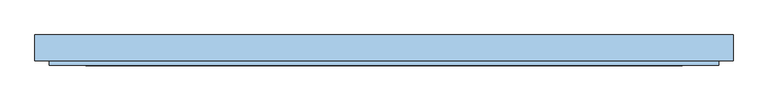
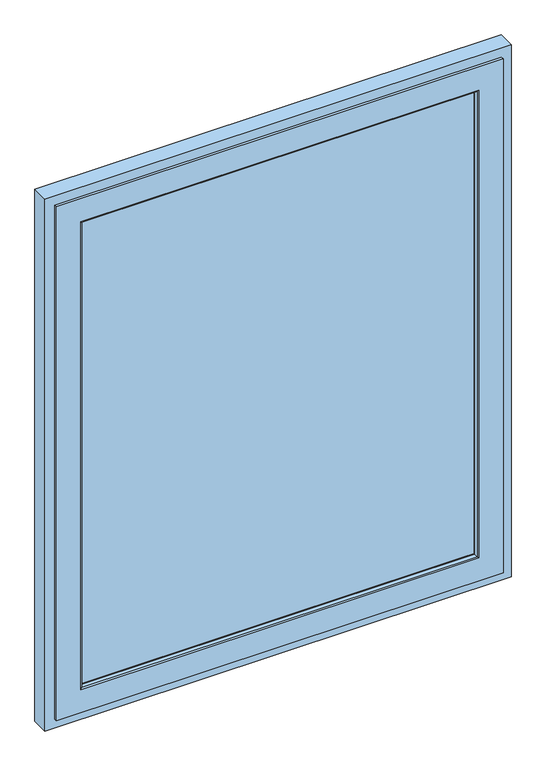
"""IFC4 building model written with IfcOpenShell, lengths in millimetres: window geometry, Hught vent : Hught vent."""

from ifc_helpers import new_model, si_unit, frame, origin, place, context, project, spatial, polyline, ellipse_curve, outline, extrude, faceted_brep, source, transform, mapped, element, save
from ifc_brep_helpers import plane_surface, cylinder_surface, advanced_brep


def window_8ede987c(model_context):
    return source(origin(), model_context, "Body", "SolidModel", [
        extrude(outline(polyline([(-526.5033655, 12.9434496), (526.5033655, 12.9434496), (526.5033655, -11.0565504), (-526.5033655, -11.0565504), (-526.5033655, 12.9434496)])), frame((0.0, 0.0, 888.4966345), z_axis=(0.0, 0.0, 1.0), x_axis=(1.0, 0.0, 0.0)), (0.0, 0.0, 1.0), 1303.006731),
        advanced_brep(
        [(513.2794983, -22.8250073, 2178.2794983), (511.499977, -15.4916685, 2176.499977), (511.499977, -15.4916685, 903.500023), (513.2794983, -22.8250073, 901.7205017), (511.499977, -11.0565504, 2176.499977), (511.499977, -11.0565504, 903.500023), (-511.499977, -15.4916685, 903.500023), (-513.2794983, -22.8250073, 901.7205017), (516.834617, -24.9916685, 2181.834617), (516.834617, -24.9916685, 898.165383), (526.5033655, -11.0565504, 888.4966345), (-526.5033655, -11.0565504, 888.4966345), (-526.5033655, -11.0565504, 2191.5033655), (526.5033655, -11.0565504, 2191.5033655), (-511.499977, -11.0565504, 2176.499977), (-511.499977, -11.0565504, 903.500023), (526.5033655, 12.9434496, 2191.5033655), (526.5033655, 12.9434496, 888.4966345), (-526.5033655, 12.9434496, 2191.5033655), (-526.5033655, 12.9434496, 888.4966345), (511.499969, 12.9434496, 903.500031), (-511.499969, 12.9434496, 903.500031), (-511.499969, 12.9434496, 2176.499969), (511.499969, 12.9434496, 2176.499969), (511.499969, 22.5083925, 2176.499969), (511.499969, 22.5083925, 903.500031), (516.999969, 28.0083925, 2181.999969), (516.999969, 28.0083925, 898.000031), (-511.499969, 22.5083925, 903.500031), (546.9999918, 28.0083924, 868.0000082), (-546.9999918, 28.0083924, 868.0000082), (-546.9999918, 28.0083924, 2211.9999918), (546.9999918, 28.0083924, 2211.9999918), (-516.999969, 28.0083924, 2181.999969), (-516.999969, 28.0083924, 898.000031), (546.9999918, 20.0083925, 2211.9999918), (546.9999918, 20.0083925, 868.0000082), (562.4999476, 20.0083925, 852.5000524), (-562.4999476, 20.0083925, 852.5000524), (-562.4999476, 20.0083925, 2227.4999476), (562.4999476, 20.0083925, 2227.4999476), (-546.9999918, 20.0083925, 2211.9999918), (-546.9999918, 20.0083925, 868.0000082), (562.4999476, -17.0, 2227.4999476), (562.4999476, -17.0, 852.5000524), (580.0, -17.0, 835.0), (-580.0, -17.0, 835.0), (-580.0, -17.0, 2245.0), (580.0, -17.0, 2245.0), (-562.4999476, -17.0, 2227.4999476), (-562.4999476, -17.0, 852.5000524), (580.0, -24.9916685, 2245.0), (580.0, -24.9916685, 835.0), (-580.0, -24.9916685, 2245.0), (-580.0, -24.9916685, 835.0), (-516.834617, -24.9916685, 898.165383), (-516.834617, -24.9916685, 2181.834617), (-511.499977, -15.4916685, 2176.499977), (-513.2794983, -22.8250073, 2178.2794983), (-511.499969, 22.5083925, 2176.499969)],
        [
            (0, 1, ellipse_curve(frame((527.499941, -15.4916685, 2192.499941), z_axis=(0.7071067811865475, 0.0, -0.7071067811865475), x_axis=(0.7071067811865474, 0.0, 0.7071067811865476)), 22.6273661, 15.999964)),
            (1, 2),
            (2, 3, ellipse_curve(frame((527.499941, -15.4916685, 887.500059), z_axis=(0.7071067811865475, 0.0, 0.7071067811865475), x_axis=(-0.7071067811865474, 0.0, 0.7071067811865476)), 22.6273661, 15.999964)),
            (3, 0),
            (1, 4),
            (4, 5),
            (5, 2),
            (2, 6),
            (6, 7, ellipse_curve(frame((-527.499941, -15.4916685, 887.500059), z_axis=(0.7071067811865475, 0.0, -0.7071067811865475), x_axis=(0.7071067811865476, 0.0, 0.7071067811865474)), 22.6273661, 15.999964)),
            (7, 3),
            (8, 0, ellipse_curve(frame((516.834617, -20.9916685, 2181.834617), z_axis=(0.7071067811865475, 0.0, -0.7071067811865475), x_axis=(0.7071067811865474, 0.0, 0.7071067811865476)), 5.6568542, 4.0)),
            (3, 9, ellipse_curve(frame((516.834617, -20.9916685, 898.165383), z_axis=(0.7071067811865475, 0.0, 0.7071067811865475), x_axis=(-0.7071067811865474, 0.0, 0.7071067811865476)), 5.6568542, 4.0)),
            (9, 8),
            (10, 11),
            (11, 12),
            (12, 13),
            (13, 10),
            (4, 14),
            (14, 15),
            (15, 5),
            (15, 6),
            (13, 16),
            (16, 17),
            (17, 10),
            (16, 18),
            (18, 19),
            (19, 17),
            (20, 21),
            (21, 22),
            (22, 23),
            (23, 20),
            (19, 11),
            (23, 24),
            (24, 25),
            (25, 20),
            (24, 26, ellipse_curve(frame((516.999969, 22.5083925, 2181.999969), z_axis=(0.7071067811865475, 0.0, -0.7071067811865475), x_axis=(0.7071067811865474, 0.0, 0.7071067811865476)), 7.7781746, 5.5)),
            (26, 27),
            (27, 25, ellipse_curve(frame((516.999969, 22.5083925, 898.000031), z_axis=(0.7071067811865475, 0.0, 0.7071067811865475), x_axis=(-0.7071067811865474, 0.0, 0.7071067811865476)), 7.7781746, 5.5)),
            (25, 28),
            (28, 21),
            (29, 30),
            (30, 31),
            (31, 32),
            (32, 29),
            (26, 33),
            (33, 34),
            (34, 27),
            (34, 28, ellipse_curve(frame((-516.999969, 22.5083925, 898.000031), z_axis=(0.7071067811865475, 0.0, -0.7071067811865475), x_axis=(0.7071067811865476, 0.0, 0.7071067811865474)), 7.7781746, 5.5)),
            (32, 35),
            (35, 36),
            (36, 29),
            (37, 38),
            (38, 39),
            (39, 40),
            (40, 37),
            (35, 41),
            (41, 42),
            (42, 36),
            (42, 30),
            (40, 43),
            (43, 44),
            (44, 37),
            (45, 46),
            (46, 47),
            (47, 48),
            (48, 45),
            (43, 49),
            (49, 50),
            (50, 44),
            (50, 38),
            (48, 51),
            (51, 52),
            (52, 45),
            (51, 53),
            (53, 54),
            (54, 52),
            (9, 55),
            (55, 56),
            (56, 8),
            (54, 46),
            (7, 55, ellipse_curve(frame((-516.834617, -20.9916685, 898.165383), z_axis=(0.7071067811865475, 0.0, -0.7071067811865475), x_axis=(0.7071067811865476, 0.0, 0.7071067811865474)), 5.6568542, 4.0)),
            (6, 57),
            (57, 58, ellipse_curve(frame((-527.499941, -15.4916685, 2192.499941), z_axis=(-0.7071067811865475, 0.0, -0.7071067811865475), x_axis=(0.7071067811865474, 0.0, -0.7071067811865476)), 22.6273661, 15.999964)),
            (58, 7),
            (14, 57),
            (18, 12),
            (28, 59),
            (59, 22),
            (33, 59, ellipse_curve(frame((-516.999969, 22.5083925, 2181.999969), z_axis=(-0.7071067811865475, 0.0, -0.7071067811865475), x_axis=(0.7071067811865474, 0.0, -0.7071067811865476)), 7.7781746, 5.5)),
            (41, 31),
            (49, 39),
            (53, 47),
            (58, 56, ellipse_curve(frame((-516.834617, -20.9916685, 2181.834617), z_axis=(-0.7071067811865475, 0.0, -0.7071067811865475), x_axis=(0.7071067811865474, 0.0, -0.7071067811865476)), 5.6568542, 4.0)),
            (57, 1),
            (0, 58),
            (59, 24),
        ],
        [
            cylinder_surface(frame((527.499941, -15.4916685, 2270.0), z_axis=(0.0, 0.0, 1.0), x_axis=(-1.0, 0.0, 0.0)), 15.999964),
            plane_surface(frame((511.499977, -11.0565504, 2176.499977), z_axis=(-1.0, 0.0, 0.0), x_axis=(0.0, 0.0, -1.0))),
            cylinder_surface(frame((605.0, -15.4916685, 887.500059), z_axis=(1.0, 0.0, 0.0), x_axis=(0.0, 0.0, 1.0)), 15.999964),
            cylinder_surface(frame((516.834617, -20.9916685, 2270.0), z_axis=(0.0, 0.0, 1.0000000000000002), x_axis=(-0.8887804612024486, -0.4583331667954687, 0.0)), 4.0),
            plane_surface(frame((-526.5033655, -11.0565504, 2191.5033655), z_axis=(0.0, 1.0, 0.0), x_axis=(1.0, 0.0, 0.0))),
            plane_surface(frame((511.499977, -11.0565504, 903.500023), z_axis=(0.0, 0.0, 1.0), x_axis=(-1.0, 0.0, 0.0))),
            plane_surface(frame((526.5033655, 12.9434496, 2191.5033655), z_axis=(-1.0, 0.0, 0.0), x_axis=(0.0, 0.0, -1.0))),
            plane_surface(frame((-511.499969, 12.9434496, 2176.499969), z_axis=(0.0, -1.0, 0.0), x_axis=(1.0, 0.0, 0.0))),
            plane_surface(frame((526.5033655, 12.9434496, 888.4966345), z_axis=(0.0, 0.0, 1.0), x_axis=(-1.0, 0.0, 0.0))),
            plane_surface(frame((511.499969, 22.5083925, 2176.499969), z_axis=(-1.0, 0.0, 0.0), x_axis=(0.0, 0.0, -1.0))),
            cylinder_surface(frame((516.999969, 22.5083925, 2270.0), z_axis=(0.0, 0.0, 1.0), x_axis=(0.0, 1.0, 0.0)), 5.5),
            plane_surface(frame((511.499969, 22.5083925, 903.500031), z_axis=(0.0, 0.0, 1.0), x_axis=(-1.0, 0.0, 0.0))),
            plane_surface(frame((-546.9999918, 28.0083924, 2211.9999918), z_axis=(0.0, 1.0, 0.0), x_axis=(1.0, 0.0, 0.0))),
            cylinder_surface(frame((605.0, 22.5083925, 898.000031), z_axis=(1.0, 0.0, 0.0), x_axis=(0.0, 1.0, 0.0)), 5.5),
            plane_surface(frame((546.9999918, 20.0083925, 2211.9999918), z_axis=(1.0, 0.0, 0.0), x_axis=(0.0, 0.0, -1.0))),
            plane_surface(frame((-562.4999476, 20.0083925, 2227.4999476), z_axis=(0.0, 1.0, 0.0), x_axis=(1.0, 0.0, 0.0))),
            plane_surface(frame((546.9999918, 20.0083925, 868.0000082), z_axis=(0.0, 0.0, -1.0), x_axis=(-1.0, 0.0, 0.0))),
            plane_surface(frame((562.4999476, -17.0, 2227.4999476), z_axis=(1.0, 0.0, 0.0), x_axis=(0.0, 0.0, -1.0))),
            plane_surface(frame((-580.0, -17.0, 2245.0), z_axis=(0.0, 1.0, 0.0), x_axis=(1.0, 0.0, 0.0))),
            plane_surface(frame((562.4999476, -17.0, 852.5000524), z_axis=(0.0, 0.0, -1.0), x_axis=(-1.0, 0.0, 0.0))),
            plane_surface(frame((580.0, -24.9916685, 2245.0), z_axis=(1.0, 0.0, 0.0), x_axis=(0.0, 0.0, -1.0))),
            plane_surface(frame((-516.834617, -24.9916685, 2181.834617), z_axis=(0.0, -1.0, 0.0), x_axis=(1.0, 0.0, 0.0))),
            plane_surface(frame((580.0, -24.9916685, 835.0), z_axis=(0.0, 0.0, -1.0), x_axis=(-1.0, 0.0, 0.0))),
            cylinder_surface(frame((605.0, -20.9916685, 898.165383), z_axis=(1.0000000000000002, 0.0, 0.0), x_axis=(0.0, -0.4583331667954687, 0.8887804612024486)), 4.0),
            cylinder_surface(frame((-527.499941, -15.4916685, 810.0), z_axis=(0.0, 0.0, -1.0), x_axis=(1.0, 0.0, 0.0)), 15.999964),
            plane_surface(frame((-511.499977, -11.0565504, 903.500023), z_axis=(1.0, 0.0, 0.0), x_axis=(0.0, 0.0, 1.0))),
            plane_surface(frame((-526.5033655, 12.9434496, 888.4966345), z_axis=(1.0, 0.0, 0.0), x_axis=(0.0, 0.0, 1.0))),
            plane_surface(frame((-511.499969, 22.5083925, 903.500031), z_axis=(1.0, 0.0, 0.0), x_axis=(0.0, 0.0, 1.0))),
            cylinder_surface(frame((-516.999969, 22.5083925, 810.0), z_axis=(0.0, 0.0, -1.0), x_axis=(0.0, 1.0, 0.0)), 5.5),
            plane_surface(frame((-546.9999918, 20.0083925, 868.0000082), z_axis=(-1.0, 0.0, 0.0), x_axis=(0.0, 0.0, 1.0))),
            plane_surface(frame((-562.4999476, -17.0, 852.5000524), z_axis=(-1.0, 0.0, 0.0), x_axis=(0.0, 0.0, 1.0))),
            plane_surface(frame((-580.0, -24.9916685, 835.0), z_axis=(-1.0, 0.0, 0.0), x_axis=(0.0, 0.0, 1.0))),
            cylinder_surface(frame((-516.834617, -20.9916685, 810.0), z_axis=(0.0, 0.0, -1.0000000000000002), x_axis=(0.8887804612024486, -0.4583331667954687, 0.0)), 4.0),
            cylinder_surface(frame((-605.0, -15.4916685, 2192.499941), z_axis=(-1.0, 0.0, 0.0), x_axis=(0.0, 0.0, -1.0)), 15.999964),
            plane_surface(frame((-511.499977, -11.0565504, 2176.499977), z_axis=(0.0, 0.0, -1.0), x_axis=(1.0, 0.0, 0.0))),
            plane_surface(frame((-526.5033655, 12.9434496, 2191.5033655), z_axis=(0.0, 0.0, -1.0), x_axis=(1.0, 0.0, 0.0))),
            plane_surface(frame((-511.499969, 22.5083925, 2176.499969), z_axis=(0.0, 0.0, -1.0), x_axis=(1.0, 0.0, 0.0))),
            cylinder_surface(frame((-605.0, 22.5083925, 2181.999969), z_axis=(-1.0, 0.0, 0.0), x_axis=(0.0, 1.0, 0.0)), 5.5),
            plane_surface(frame((-546.9999918, 20.0083925, 2211.9999918), z_axis=(0.0, 0.0, 1.0), x_axis=(1.0, 0.0, 0.0))),
            plane_surface(frame((-562.4999476, -17.0, 2227.4999476), z_axis=(0.0, 0.0, 1.0), x_axis=(1.0, 0.0, 0.0))),
            plane_surface(frame((-580.0, -24.9916685, 2245.0), z_axis=(0.0, 0.0, 1.0), x_axis=(1.0, 0.0, 0.0))),
            cylinder_surface(frame((-605.0, -20.9916685, 2181.834617), z_axis=(-1.0000000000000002, 0.0, 0.0), x_axis=(0.0, -0.4583331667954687, -0.8887804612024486)), 4.0),
        ],
        [
            (0, [[1, 2, 3, 4]]),
            (1, [[5, 6, 7, -2]]),
            (2, [[-3, 8, 9, 10]]),
            (3, [[11, -4, 12, 13]]),
            (4, [[14, 15, 16, 17], [18, 19, 20, -6]]),
            (5, [[-7, -20, 21, -8]]),
            (6, [[22, 23, 24, -17]]),
            (7, [[25, 26, 27, -23], [28, 29, 30, 31]]),
            (8, [[-24, -27, 32, -14]]),
            (9, [[33, 34, 35, -31]]),
            (10, [[36, 37, 38, -34]]),
            (11, [[-35, 39, 40, -28]]),
            (12, [[41, 42, 43, 44], [45, 46, 47, -37]]),
            (13, [[-38, -47, 48, -39]]),
            (14, [[49, 50, 51, -44]]),
            (15, [[52, 53, 54, 55], [56, 57, 58, -50]]),
            (16, [[-51, -58, 59, -41]]),
            (17, [[60, 61, 62, -55]]),
            (18, [[63, 64, 65, 66], [67, 68, 69, -61]]),
            (19, [[-62, -69, 70, -52]]),
            (20, [[71, 72, 73, -66]]),
            (21, [[74, 75, 76, -72], [77, 78, 79, -13]]),
            (22, [[-73, -76, 80, -63]]),
            (23, [[-12, -10, 81, -77]]),
            (24, [[-9, 82, 83, 84]]),
            (25, [[-21, -19, 85, -82]]),
            (26, [[-32, -26, 86, -15]]),
            (27, [[-40, 87, 88, -29]]),
            (28, [[-48, -46, 89, -87]]),
            (29, [[-59, -57, 90, -42]]),
            (30, [[-70, -68, 91, -53]]),
            (31, [[-80, -75, 92, -64]]),
            (32, [[-81, -84, 93, -78]]),
            (33, [[-83, 94, -1, 95]]),
            (34, [[-85, -18, -5, -94]]),
            (35, [[-86, -25, -22, -16]]),
            (36, [[-88, 96, -33, -30]]),
            (37, [[-89, -45, -36, -96]]),
            (38, [[-90, -56, -49, -43]]),
            (39, [[-91, -67, -60, -54]]),
            (40, [[-92, -74, -71, -65]]),
            (41, [[-93, -95, -11, -79]]),
        ],
    ),
        faceted_brep([(605.0, 28.0, 2270.0), (605.0, -17.0, 2270.0), (605.0, -17.0, 810.0), (605.0, 28.0, 810.0), (-605.0, -17.0, 2270.0), (-605.0, -17.0, 810.0), (574.0, -17.0, 841.0), (-574.0, -17.0, 841.0), (-574.0, -17.0, 2239.0), (574.0, -17.0, 2239.0), (-605.0, 28.0, 810.0), (-605.0, 28.0, 2270.0), (552.0, 28.0, 2217.0), (-552.0, 28.0, 2217.0), (-552.0, 28.0, 863.0), (552.0, 28.0, 863.0), (552.0, 20.0083925, 2217.0), (552.0, 20.0083925, 863.0), (-552.0, 20.0083925, 863.0), (574.0, 20.0083925, 2239.0), (-574.0, 20.0083925, 2239.0), (-574.0, 20.0083925, 841.0), (574.0, 20.0083925, 841.0), (-552.0, 20.0083925, 2217.0)], [[[0, 1, 2, 3]], [[1, 4, 5, 2], [6, 7, 8, 9]], [[3, 2, 5, 10]], [[3, 10, 11, 0], [12, 13, 14, 15]], [[16, 12, 15, 17]], [[17, 15, 14, 18]], [[19, 20, 21, 22], [17, 18, 23, 16]], [[9, 19, 22, 6]], [[6, 22, 21, 7]], [[10, 5, 4, 11]], [[18, 14, 13, 23]], [[7, 21, 20, 8]], [[11, 4, 1, 0]], [[23, 13, 12, 16]], [[8, 20, 19, 9]]]),
    ])


if __name__ == "__main__":
    model = new_model("IFC4")
    model_context = context("Model", 3, world=origin())
    ifc_project = project(units=[si_unit("LENGTHUNIT", "METRE", prefix="MILLI")], contexts=[model_context])
    site = spatial("IfcSite", under=ifc_project)
    building = spatial("IfcBuilding", under=site)
    placement = place(None, origin())
    window_shape = window_8ede987c(model_context)
    element("IfcWindow", 1, ObjectType="Hught vent : Hught vent", at=placement, inside=building, context=model_context, shape_type="MappedRepresentation", body=[
        mapped(window_shape, transform((0.0, 0.0, 0.0), x_axis=(1.0, 0.0, 0.0), y_axis=(0.0, 1.0, 0.0), z_axis=(0.0, 0.0, 1.0))),
    ])
    save(model, "model.ifc")
